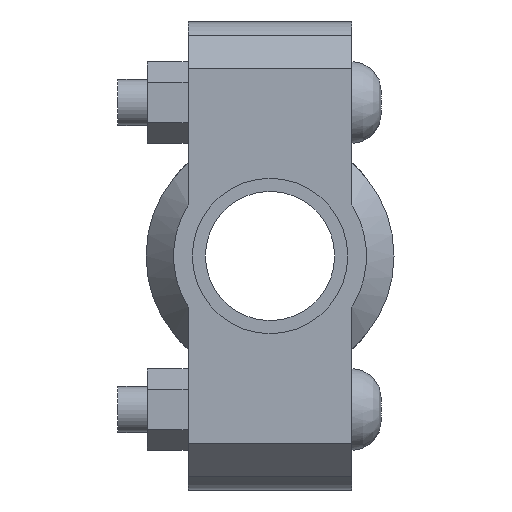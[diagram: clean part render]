
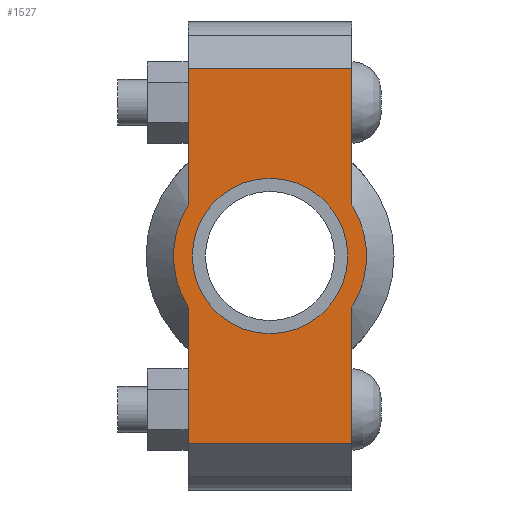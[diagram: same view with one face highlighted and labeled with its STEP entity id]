
A CAD part, left-side view. The second image highlights one B-rep face of the part: STEP entity #1527.
In plain terms, the highlighted planar face has unit normal (-1, 0, 0) as drawn and (0, 0, 1) by its records, which use the part's own axes.
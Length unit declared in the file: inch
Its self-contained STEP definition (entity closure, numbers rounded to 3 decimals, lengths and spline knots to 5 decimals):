
#138=LINE('',#2623,#233);
#153=LINE('',#2682,#248);
#161=LINE('',#2712,#256);
#163=LINE('',#2715,#258);
#164=LINE('',#2720,#259);
#165=LINE('',#2721,#260);
#233=VECTOR('',#2121,0.3937);
#248=VECTOR('',#2156,0.3937);
#256=VECTOR('',#2176,0.3937);
#258=VECTOR('',#2180,0.3937);
#259=VECTOR('',#2185,0.3937);
#260=VECTOR('',#2186,0.3937);
#320=FACE_BOUND('',#479,.T.);
#380=FACE_OUTER_BOUND('',#478,.T.);
#478=EDGE_LOOP('',(#1222,#1223,#1224,#1225,#1226,#1227,#1228,#1229));
#479=EDGE_LOOP('',(#1230));
#584=CIRCLE('',#1790,1.031);
#585=CIRCLE('',#1791,1.031);
#586=CIRCLE('',#1792,0.83);
#693=VERTEX_POINT('',#2620);
#694=VERTEX_POINT('',#2622);
#715=VERTEX_POINT('',#2677);
#716=VERTEX_POINT('',#2681);
#725=VERTEX_POINT('',#2707);
#726=VERTEX_POINT('',#2711);
#727=VERTEX_POINT('',#2717);
#728=VERTEX_POINT('',#2719);
#729=VERTEX_POINT('',#2723);
#863=EDGE_CURVE('',#694,#693,#138,.T.);
#888=EDGE_CURVE('',#716,#715,#153,.T.);
#901=EDGE_CURVE('',#726,#725,#161,.T.);
#903=EDGE_CURVE('',#726,#693,#163,.T.);
#904=EDGE_CURVE('',#725,#727,#584,.T.);
#905=EDGE_CURVE('',#727,#728,#164,.T.);
#906=EDGE_CURVE('',#716,#728,#165,.T.);
#907=EDGE_CURVE('',#715,#694,#585,.T.);
#908=EDGE_CURVE('',#729,#729,#586,.T.);
#1222=ORIENTED_EDGE('',*,*,#903,.F.);
#1223=ORIENTED_EDGE('',*,*,#901,.T.);
#1224=ORIENTED_EDGE('',*,*,#904,.T.);
#1225=ORIENTED_EDGE('',*,*,#905,.T.);
#1226=ORIENTED_EDGE('',*,*,#906,.F.);
#1227=ORIENTED_EDGE('',*,*,#888,.T.);
#1228=ORIENTED_EDGE('',*,*,#907,.T.);
#1229=ORIENTED_EDGE('',*,*,#863,.T.);
#1230=ORIENTED_EDGE('',*,*,#908,.T.);
#1379=PLANE('',#1789);
#1527=ADVANCED_FACE('',(#380,#320),#1379,.T.);
#1789=AXIS2_PLACEMENT_3D('',#2716,#2181,#2182);
#1790=AXIS2_PLACEMENT_3D('',#2718,#2183,#2184);
#1791=AXIS2_PLACEMENT_3D('',#2722,#2187,#2188);
#1792=AXIS2_PLACEMENT_3D('',#2724,#2189,#2190);
#2121=DIRECTION('',(1.,0.,0.));
#2156=DIRECTION('',(1.,0.,0.));
#2176=DIRECTION('',(-1.,0.,0.));
#2180=DIRECTION('',(0.,-1.,0.));
#2181=DIRECTION('center_axis',(0.,0.,1.));
#2182=DIRECTION('ref_axis',(-1.,0.,0.));
#2183=DIRECTION('center_axis',(0.,0.,1.));
#2184=DIRECTION('ref_axis',(1.,0.,0.));
#2185=DIRECTION('',(-1.,0.,0.));
#2186=DIRECTION('',(0.,1.,0.));
#2187=DIRECTION('center_axis',(0.,0.,1.));
#2188=DIRECTION('ref_axis',(1.,0.,0.));
#2189=DIRECTION('center_axis',(0.,0.,-1.));
#2190=DIRECTION('ref_axis',(1.,0.,0.));
#2620=CARTESIAN_POINT('',(2.,-0.875,0.94));
#2622=CARTESIAN_POINT('',(0.54529,-0.875,0.94));
#2623=CARTESIAN_POINT('',(-2.5,-0.875,0.94));
#2677=CARTESIAN_POINT('',(-0.54529,-0.875,0.94));
#2681=CARTESIAN_POINT('',(-2.,-0.875,0.94));
#2682=CARTESIAN_POINT('',(-2.5,-0.875,0.94));
#2707=CARTESIAN_POINT('',(0.54529,0.875,0.94));
#2711=CARTESIAN_POINT('',(2.,0.875,0.94));
#2712=CARTESIAN_POINT('',(2.5,0.875,0.94));
#2715=CARTESIAN_POINT('',(2.,-0.4375,0.94));
#2716=CARTESIAN_POINT('Origin',(0.,0.,
0.94));
#2717=CARTESIAN_POINT('',(-0.54529,0.875,0.94));
#2718=CARTESIAN_POINT('Origin',(0.,0.,0.94));
#2719=CARTESIAN_POINT('',(-2.,0.875,0.94));
#2720=CARTESIAN_POINT('',(2.5,0.875,0.94));
#2721=CARTESIAN_POINT('',(-2.,0.4375,0.94));
#2722=CARTESIAN_POINT('Origin',(0.,0.,0.94));
#2723=CARTESIAN_POINT('',(-0.83,0.,0.94));
#2724=CARTESIAN_POINT('Origin',(0.,0.,0.94));
